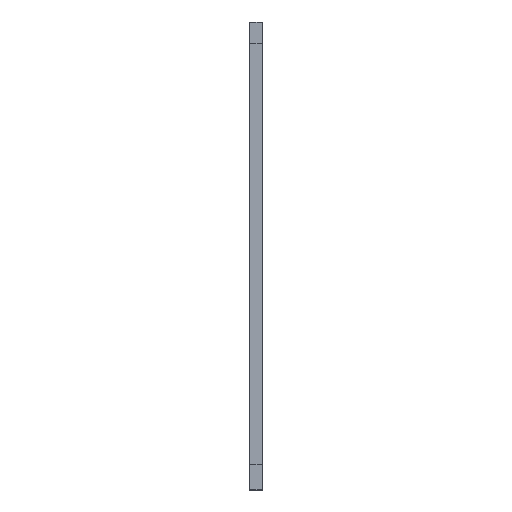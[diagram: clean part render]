
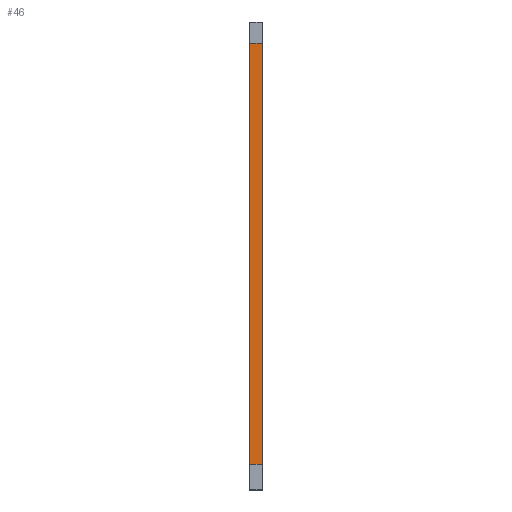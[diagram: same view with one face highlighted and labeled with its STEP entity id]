
A CAD part, left-side view. The second image highlights one B-rep face of the part: STEP entity #46.
In plain terms, the highlighted planar face has unit normal (-1, 0, 0).
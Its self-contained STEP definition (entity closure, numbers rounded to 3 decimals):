
#46=ADVANCED_FACE('',(#70),#826,.T.);
#70=FACE_OUTER_BOUND('',#94,.T.);
#94=EDGE_LOOP('',(#143,#144,#145,#146));
#143=ORIENTED_EDGE('',*,*,#577,.T.);
#144=ORIENTED_EDGE('',*,*,#558,.F.);
#145=ORIENTED_EDGE('',*,*,#578,.T.);
#146=ORIENTED_EDGE('',*,*,#575,.F.);
#258=PCURVE('',#819,#378);
#280=PCURVE('',#825,#400);
#283=PCURVE('',#826,#403);
#284=PCURVE('',#826,#404);
#285=PCURVE('',#826,#405);
#286=PCURVE('',#826,#406);
#295=PCURVE('',#827,#415);
#314=PCURVE('',#828,#434);
#378=DEFINITIONAL_REPRESENTATION('',(#622),#1446);
#400=DEFINITIONAL_REPRESENTATION('',(#661),#1446);
#403=DEFINITIONAL_REPRESENTATION('',(#666),#1446);
#404=DEFINITIONAL_REPRESENTATION('',(#667),#1446);
#405=DEFINITIONAL_REPRESENTATION('',(#669),#1446);
#406=DEFINITIONAL_REPRESENTATION('',(#670),#1446);
#415=DEFINITIONAL_REPRESENTATION('',(#679),#1446);
#434=DEFINITIONAL_REPRESENTATION('',(#694),#1446);
#498=SURFACE_CURVE('',#621,(#258,#284),.PCURVE_S1.);
#515=SURFACE_CURVE('',#660,(#280,#286),.PCURVE_S1.);
#517=SURFACE_CURVE('',#665,(#283,#295),.PCURVE_S1.);
#518=SURFACE_CURVE('',#668,(#285,#314),.PCURVE_S1.);
#558=EDGE_CURVE('',#778,#775,#498,.T.);
#575=EDGE_CURVE('',#789,#790,#515,.T.);
#577=EDGE_CURVE('',#789,#775,#517,.T.);
#578=EDGE_CURVE('',#778,#790,#518,.T.);
#621=B_SPLINE_CURVE_WITH_KNOTS('',1,(#1023,#1024),.UNSPECIFIED.,.F.,.F.,
(2,2),(-3.,0.),.UNSPECIFIED.);
#622=B_SPLINE_CURVE_WITH_KNOTS('',1,(#1025,#1026),.UNSPECIFIED.,.F.,.F.,
(2,2),(-3.,0.),.UNSPECIFIED.);
#660=B_SPLINE_CURVE_WITH_KNOTS('',1,(#1101,#1102),.UNSPECIFIED.,.F.,.F.,
(2,2),(0.,3.),.UNSPECIFIED.);
#661=B_SPLINE_CURVE_WITH_KNOTS('',1,(#1103,#1104),.UNSPECIFIED.,.F.,.F.,
(2,2),(0.,3.),.UNSPECIFIED.);
#665=B_SPLINE_CURVE_WITH_KNOTS('',1,(#1111,#1112),.UNSPECIFIED.,.F.,.F.,
(2,2),(461.,560.),.UNSPECIFIED.);
#666=B_SPLINE_CURVE_WITH_KNOTS('',1,(#1113,#1114),.UNSPECIFIED.,.F.,.F.,
(2,2),(461.,560.),.UNSPECIFIED.);
#667=B_SPLINE_CURVE_WITH_KNOTS('',1,(#1115,#1116),.UNSPECIFIED.,.F.,.F.,
(2,2),(-3.,0.),.UNSPECIFIED.);
#668=B_SPLINE_CURVE_WITH_KNOTS('',1,(#1117,#1118),.UNSPECIFIED.,.F.,.F.,
(2,2),(-560.,-461.),.UNSPECIFIED.);
#669=B_SPLINE_CURVE_WITH_KNOTS('',1,(#1119,#1120),.UNSPECIFIED.,.F.,.F.,
(2,2),(-560.,-461.),.UNSPECIFIED.);
#670=B_SPLINE_CURVE_WITH_KNOTS('',1,(#1121,#1122),.UNSPECIFIED.,.F.,.F.,
(2,2),(0.,3.),.UNSPECIFIED.);
#679=B_SPLINE_CURVE_WITH_KNOTS('',1,(#1167,#1168),.UNSPECIFIED.,.F.,.F.,
(2,2),(461.,560.),.UNSPECIFIED.);
#694=B_SPLINE_CURVE_WITH_KNOTS('',1,(#1227,#1228),.UNSPECIFIED.,.F.,.F.,
(2,2),(-560.,-461.),.UNSPECIFIED.);
#775=VERTEX_POINT('',#987);
#778=VERTEX_POINT('',#990);
#789=VERTEX_POINT('',#1001);
#790=VERTEX_POINT('',#1002);
#819=PLANE('',#859);
#825=PLANE('',#865);
#826=PLANE('',#866);
#827=PLANE('',#867);
#828=PLANE('',#868);
#859=AXIS2_PLACEMENT_3D('',#905,#882,$);
#865=AXIS2_PLACEMENT_3D('',#911,#888,$);
#866=AXIS2_PLACEMENT_3D('',#912,#889,$);
#867=AXIS2_PLACEMENT_3D('',#949,#890,$);
#868=AXIS2_PLACEMENT_3D('',#950,#891,$);
#882=DIRECTION('',(0.,0.,1.));
#888=DIRECTION('',(0.,0.,-1.));
#889=DIRECTION('',(-1.,0.,0.));
#890=DIRECTION('',(0.,-1.,0.));
#891=DIRECTION('',(0.,1.,0.));
#905=CARTESIAN_POINT('',(-815.,342.,139.));
#911=CARTESIAN_POINT('',(-810.,342.,40.));
#912=CARTESIAN_POINT('',(-815.,342.,40.));
#949=CARTESIAN_POINT('',(-645.,342.,34.));
#950=CARTESIAN_POINT('',(-645.,345.,34.));
#987=CARTESIAN_POINT('',(-815.,342.,139.));
#990=CARTESIAN_POINT('',(-815.,345.,139.));
#1001=CARTESIAN_POINT('',(-815.,342.,40.));
#1002=CARTESIAN_POINT('',(-815.,345.,40.));
#1023=CARTESIAN_POINT('',(-815.,345.,139.));
#1024=CARTESIAN_POINT('',(-815.,342.,139.));
#1025=CARTESIAN_POINT('',(0.,3.));
#1026=CARTESIAN_POINT('',(0.,0.));
#1101=CARTESIAN_POINT('',(-815.,342.,40.));
#1102=CARTESIAN_POINT('',(-815.,345.,40.));
#1103=CARTESIAN_POINT('',(461.,0.));
#1104=CARTESIAN_POINT('',(461.,3.));
#1111=CARTESIAN_POINT('',(-815.,342.,40.));
#1112=CARTESIAN_POINT('',(-815.,342.,139.));
#1113=CARTESIAN_POINT('',(461.,0.));
#1114=CARTESIAN_POINT('',(560.,0.));
#1115=CARTESIAN_POINT('',(560.,3.));
#1116=CARTESIAN_POINT('',(560.,0.));
#1117=CARTESIAN_POINT('',(-815.,345.,139.));
#1118=CARTESIAN_POINT('',(-815.,345.,40.));
#1119=CARTESIAN_POINT('',(560.,3.));
#1120=CARTESIAN_POINT('',(461.,3.));
#1121=CARTESIAN_POINT('',(461.,0.));
#1122=CARTESIAN_POINT('',(461.,3.));
#1167=CARTESIAN_POINT('',(-94.,13.));
#1168=CARTESIAN_POINT('',(5.,13.));
#1227=CARTESIAN_POINT('',(13.,5.));
#1228=CARTESIAN_POINT('',(13.,-94.));
#1446=(
GEOMETRIC_REPRESENTATION_CONTEXT(2)
PARAMETRIC_REPRESENTATION_CONTEXT()
REPRESENTATION_CONTEXT('pspace','')
);
